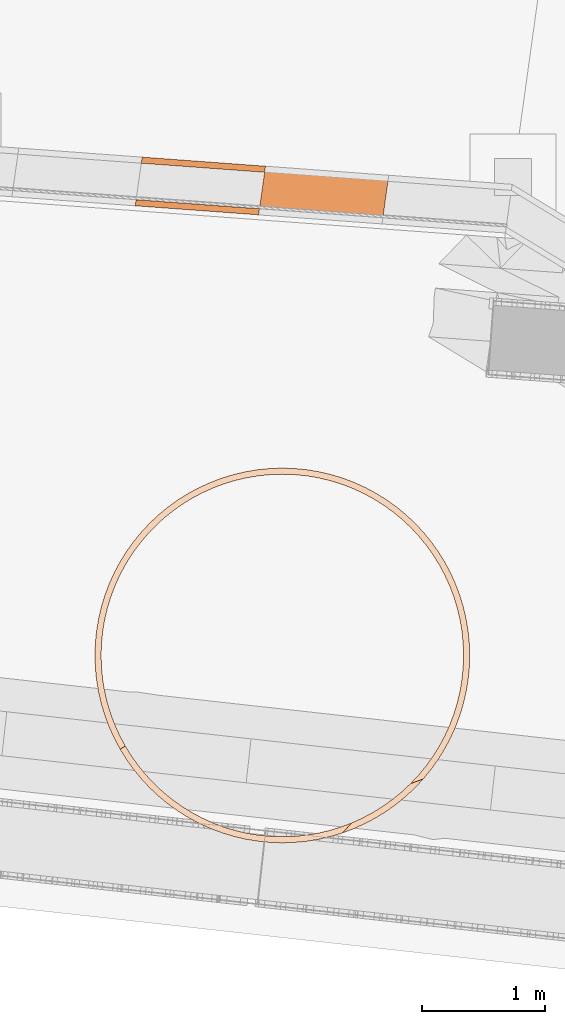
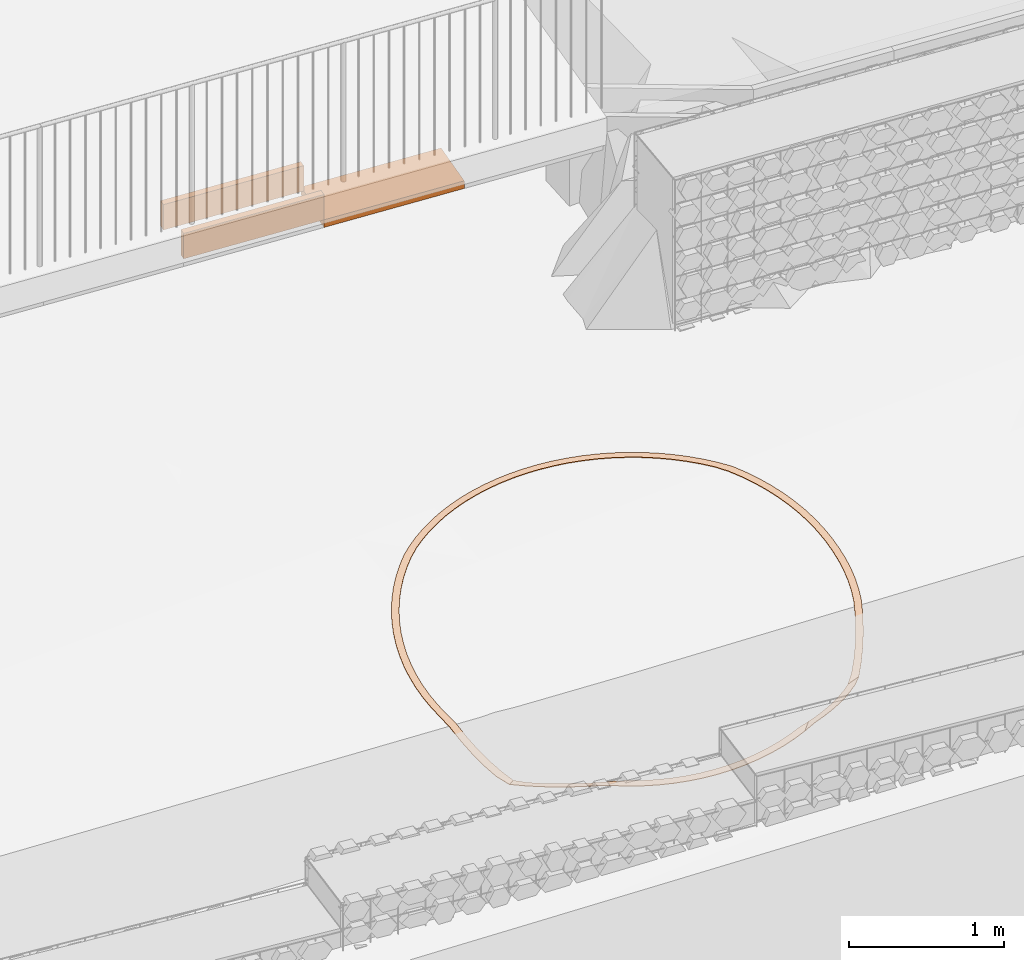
# Not in any storey, part 20 of 45: 3 proxies, 1 geographic element.
"""IFC4 model written with IfcOpenShell, lengths in metres."""

import ifcopenshell
import ifcopenshell.guid

model = None  # the IFC model being written
_history = None  # IfcOwnerHistory: only IFC2X3 demands one
_inside = {}  # id of a spatial element -> (the spatial element, [elements in it])
_under = {}  # id of a project, library or spatial element -> (it, [spatial elements below it])
_declared = {}  # id of a project -> (the project, [libraries it declares])
_typed = {}  # id of a type object -> (the type object, [elements of that type])
_made_of = {}  # id of a material, layer set ... -> (it, [elements and type objects made of it])


def new_model(schema):
    """Start an empty IFC model of exactly this schema.

    Asked for "IFC4X3", IfcOpenShell would pick the latest addendum, in which some entities
    have other attributes; the version numbers below select the first issue.
    IFC2X3 requires an IfcOwnerHistory on every rooted entity: one is made here for all.
    """
    global model, _history
    if schema == "IFC4X3":
        model = ifcopenshell.file(schema_version=(4, 3, 0, 0))
    else:
        model = ifcopenshell.file(schema=schema)
    _inside.clear()
    _under.clear()
    _declared.clear()
    _typed.clear()
    _made_of.clear()
    _history = None
    if model.schema == "IFC2X3":
        org = make("IfcOrganization", Name="unknown")
        user = make(
            "IfcPersonAndOrganization",
            ThePerson=make("IfcPerson", FamilyName="unknown"),
            TheOrganization=org,
        )
        app = make(
            "IfcApplication",
            ApplicationDeveloper=org,
            Version="unknown",
            ApplicationFullName="unknown",
            ApplicationIdentifier="unknown",
        )
        _history = make(
            "IfcOwnerHistory",
            OwningUser=user,
            OwningApplication=app,
            ChangeAction="ADDED",
            CreationDate=0,
        )
    return model


def make(cls, **values):
    """One entity of the class cls with the attributes given. An attribute that is None is left unset."""
    return model.create_entity(
        cls, **{name: value for name, value in values.items() if value is not None}
    )


def rooted(cls, **values):
    """An entity with a GlobalId (a new one), such as an element, a storey or a relation."""
    return make(cls, GlobalId=ifcopenshell.guid.new(), OwnerHistory=_history, **values)


def si_unit(unit_type, name, prefix=None):
    """IfcSIUnit, for example si_unit("LENGTHUNIT", "METRE", prefix="MILLI")."""
    return make("IfcSIUnit", UnitType=unit_type, Prefix=prefix, Name=name)


def assignment(units):
    """IfcUnitAssignment: the units of a project."""
    return None if units is None else make("IfcUnitAssignment", Units=units)


def point(xyz):
    """IfcCartesianPoint."""
    return None if xyz is None else make("IfcCartesianPoint", Coordinates=xyz)


def direction(xyz):
    """IfcDirection."""
    return None if xyz is None else make("IfcDirection", DirectionRatios=xyz)


def frame(location, z_axis=None, x_axis=None):
    """IfcAxis2Placement3D, a coordinate frame: its origin and axes. An axis left out is left unset."""
    return make(
        "IfcAxis2Placement3D",
        Location=point(location),
        Axis=direction(z_axis),
        RefDirection=direction(x_axis),
    )


def origin_with_axes():
    """The frame at (0, 0, 0) with the z axis (0, 0, 1) and the x axis (1, 0, 0) written out."""
    return frame((0.0, 0.0, 0.0), z_axis=(0.0, 0.0, 1.0), x_axis=(1.0, 0.0, 0.0))


def place(relative_to, where):
    """IfcLocalPlacement: puts the frame where relative to a parent placement (None: the world)."""
    return make(
        "IfcLocalPlacement", PlacementRelTo=relative_to, RelativePlacement=where
    )


def context(
    kind, dimensions, precision=None, world=None, true_north=None, identifier=None
):
    """IfcGeometricRepresentationContext, for example the 3D "Model" context."""
    return make(
        "IfcGeometricRepresentationContext",
        ContextIdentifier=identifier,
        ContextType=kind,
        CoordinateSpaceDimension=dimensions,
        Precision=precision,
        WorldCoordinateSystem=world,
        TrueNorth=true_north,
    )


def subcontext(parent, identifier, kind, view, scale=None):
    """IfcGeometricRepresentationSubContext, for example "Body" below "Model"."""
    return make(
        "IfcGeometricRepresentationSubContext",
        ContextIdentifier=identifier,
        ContextType=kind,
        ParentContext=parent,
        TargetScale=scale,
        TargetView=view,
    )


def project(units=None, contexts=None):
    """IfcProject with its units and contexts."""
    return rooted(
        "IfcProject",
        Name="project",
        RepresentationContexts=contexts,
        UnitsInContext=assignment(units),
    )


def spatial(cls, under=None, at=None, **own):
    """A site, building, storey or space (cls), placed at a placement, below another one or the project."""
    s = rooted(cls, ObjectPlacement=at, **own)
    if under is not None:
        _under.setdefault(under.id(), (under, []))[1].append(s)
    return s


def point_list(points):
    """IfcCartesianPointList2D or 3D."""
    cls = (
        "IfcCartesianPointList2D" if len(points[0]) == 2 else "IfcCartesianPointList3D"
    )
    return make(cls, CoordList=points)


def polygons(points, faces, closed=None, point_numbers=None):
    """IfcPolygonalFaceSet: a face is its outer loop, then its inner loops; points numbered from 1."""
    made = []
    for loops in faces:
        if len(loops) == 1:
            made.append(make("IfcIndexedPolygonalFace", CoordIndex=loops[0]))
        else:
            made.append(
                make(
                    "IfcIndexedPolygonalFaceWithVoids",
                    CoordIndex=loops[0],
                    InnerCoordIndices=loops[1:],
                )
            )
    return make(
        "IfcPolygonalFaceSet",
        Coordinates=point_list(points),
        Closed=closed,
        Faces=made,
        PnIndex=point_numbers,
    )


def shape(context_of_items, identifier, shape_type, items):
    """IfcShapeRepresentation: the items that make up one representation, for example the "Body"."""
    return make(
        "IfcShapeRepresentation",
        ContextOfItems=context_of_items,
        RepresentationIdentifier=identifier,
        RepresentationType=shape_type,
        Items=items,
    )


def material(Name=None, Category=None):
    """IfcMaterial."""
    return make("IfcMaterial", Name=Name, Category=Category)


def made_of(thing, what):
    """Note that an element or type object is made of a material, layer set ...; save() writes the relation."""
    if what is not None:
        _made_of.setdefault(what.id(), (what, []))[1].append(thing)
    return thing


def element(
    cls,
    number,
    at=None,
    inside=None,
    cuts=None,
    type_object=None,
    material=None,
    context=None,
    identifier="Body",
    shape_type=None,
    held_by="IfcProductDefinitionShape",
    body=None,
    shapes=None,
    **own,
):
    """One element of the class cls, such as IfcWall. Its Tag is "e" and its number.

    at: its placement. inside: the storey or other place that contains it. cuts: it is an
    opening in that element (IfcRelVoidsElement). A single representation is given by context,
    identifier, shape_type and body (its items); several are given by shapes. held_by: the class
    of the entity that holds the representations. save() writes the other relations.
    """
    e = rooted(cls, Tag="e%d" % number, ObjectPlacement=at, **own)
    if body is not None:
        shapes = [shape(context, identifier, shape_type, body)]
    if shapes is not None:
        e.Representation = make(held_by, Representations=shapes)
    if inside is not None:
        _inside.setdefault(inside.id(), (inside, []))[1].append(e)
    if cuts is not None:
        rooted(
            "IfcRelVoidsElement", RelatingBuildingElement=cuts, RelatedOpeningElement=e
        )
    if type_object is not None:
        _typed.setdefault(type_object.id(), (type_object, []))[1].append(e)
    return made_of(e, material)


def aggregate(whole, parts):
    """IfcRelAggregates: a whole, such as a stair, and the parts it consists of."""
    return rooted("IfcRelAggregates", RelatingObject=whole, RelatedObjects=parts)


def save(model, path):
    """Write the relations noted so far, then the file.

    IfcRelAggregates (storeys below a building ...), IfcRelContainedInSpatialStructure (elements
    in a storey), IfcRelDefinesByType, IfcRelAssociatesMaterial and IfcRelDeclares: one each for
    every whole, place, type object, material and project.
    """
    for whole, parts in _under.values():
        aggregate(whole, parts)
    for where, things in _inside.values():
        rooted(
            "IfcRelContainedInSpatialStructure",
            RelatedElements=things,
            RelatingStructure=where,
        )
    for kind, things in _typed.values():
        rooted("IfcRelDefinesByType", RelatedObjects=things, RelatingType=kind)
    for what, things in _made_of.values():
        rooted("IfcRelAssociatesMaterial", RelatedObjects=things, RelatingMaterial=what)
    for by, libraries in _declared.values():
        rooted("IfcRelDeclares", RelatingContext=by, RelatedDefinitions=libraries)
    model.write(path)


model = new_model("IFC4")

# Units and contexts
model_context = context("Model", 3, precision=1e-05, world=origin_with_axes(), true_north=direction((0.0, 1.0)))
body_context = subcontext(model_context, "Body", "Model", "MODEL_VIEW")
ifc_project = project(units=[si_unit("VOLUMEUNIT", "CUBIC_METRE"), si_unit("LENGTHUNIT", "METRE"), si_unit("AREAUNIT", "SQUARE_METRE")], contexts=[model_context])

# Site
site_placement = place(None, origin_with_axes())
site = spatial("IfcSite", under=ifc_project, at=site_placement, Name="Lares · Rua das Mercês · artigo 4771")

# Proxies
ifc_material_1 = material(Name="Caleiras · betão", Category="concrete")
proxy_1_placement = place(site_placement, frame((0.0, 0.0, 0.0), z_axis=(0.0, 0.0, 1.0), x_axis=(1.0, -1.03767253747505e-17, 0.0)))
element("IfcBuildingElementProxy", 1, at=proxy_1_placement, inside=site, material=ifc_material_1, Name="Acesso · canal lateral", ObjectType="Acesso · canal lateral", PredefinedType="USERDEFINED", context=body_context, shape_type="Tessellation", body=[
    polygons([(52.6687133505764, 2.79896602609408, 15.284), (52.6757378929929, 2.84847012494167, 15.284), (53.6797546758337, 2.77468068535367, 15.285), (53.6727301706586, 2.72517658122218, 15.285), (52.6687133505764, 2.79896602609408, 15.484), (52.6757378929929, 2.84847012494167, 15.484), (53.6797546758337, 2.77468068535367, 15.485), (53.6727301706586, 2.72517658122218, 15.485)], [[[4, 3, 2, 1]], [[5, 6, 7, 8]], [[1, 2, 6, 5]], [[2, 3, 7, 6]], [[3, 4, 8, 7]], [[4, 1, 5, 8]]]),
])
proxy_2_placement = place(site_placement, frame((0.0, 0.0, 0.0), z_axis=(0.0, 0.0, 1.0), x_axis=(1.0, -1.03767253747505e-17, 0.0)))
element("IfcBuildingElementProxy", 2, at=proxy_2_placement, inside=site, material=ifc_material_1, Name="Acesso · canal lateral", ObjectType="Acesso · canal lateral", PredefinedType="USERDEFINED", context=body_context, shape_type="Tessellation", body=[
    polygons([(52.7178851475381, 3.14549471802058, 15.284), (52.7249096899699, 3.19499881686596, 15.284), (53.7289262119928, 3.12120941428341, 15.285), (53.7219017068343, 3.07170531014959, 15.285), (52.7178851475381, 3.14549471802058, 15.484), (52.7249096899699, 3.19499881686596, 15.484), (53.7289262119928, 3.12120941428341, 15.485), (53.7219017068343, 3.07170531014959, 15.485)], [[[4, 3, 2, 1]], [[5, 6, 7, 8]], [[1, 2, 6, 5]], [[2, 3, 7, 6]], [[3, 4, 8, 7]], [[4, 1, 5, 8]]]),
])
proxy_3_placement = place(site_placement, frame((0.0, 0.0, 0.0), z_axis=(0.0, 0.0, 1.0), x_axis=(1.0, -1.03767253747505e-17, 0.0)))
element("IfcBuildingElementProxy", 3, at=proxy_3_placement, inside=site, material=ifc_material_1, Name="Acesso · canal lateral", ObjectType="Acesso · canal lateral", PredefinedType="USERDEFINED", context=body_context, shape_type="Tessellation", body=[
    polygons([(53.6729766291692, 2.72514176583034, 15.225), (53.728679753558, 3.12124422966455, 15.225), (54.7326888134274, 3.04745550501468, 15.226), (54.6769860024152, 2.65135299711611, 15.226), (53.6729766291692, 2.72514176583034, 15.285), (53.728679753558, 3.12124422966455, 15.285), (54.7326888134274, 3.04745550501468, 15.286), (54.6769860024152, 2.65135299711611, 15.286)], [[[4, 3, 2, 1]], [[5, 6, 7, 8]], [[1, 2, 6, 5]], [[2, 3, 7, 6]], [[3, 4, 8, 7]], [[4, 1, 5, 8]]]),
])

# Geographic element
ifc_material_2 = material(Name="Marcação de plantação · linha no terreno", Category="stone")
geographic_element_placement = place(site_placement, frame((0.0, 0.0, 0.0), z_axis=(0.0, 0.0, 1.0), x_axis=(1.0, -1.03767253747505e-17, 0.0)))
element("IfcGeographicElement", 4, at=geographic_element_placement, inside=site, material=ifc_material_2, Name="Marcação no solo · árvore indicativa 07", ObjectType="Marcação no solo · árvore indicativa 07", PredefinedType="USERDEFINED", context=body_context, shape_type="Tessellation", body=[
    polygons([(55.3409303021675, -0.860751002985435, 14.3439481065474), (55.3409303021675, -0.860751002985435, 14.3479481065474), (55.3909303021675, -0.860751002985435, 14.3471077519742), (55.3909303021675, -0.860751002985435, 14.3511077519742), (55.3377722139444, -0.764281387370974, 14.3616722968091), (55.3377722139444, -0.764281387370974, 14.3656722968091), (55.3876651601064, -0.761011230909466, 14.3654327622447), (55.3876651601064, -0.761011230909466, 14.3694327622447), (55.3283114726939, -0.668224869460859, 14.3789214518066), (55.3283114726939, -0.668224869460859, 14.3829214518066), (55.3778837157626, -0.661698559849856, 14.3832666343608), (55.3778837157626, -0.661698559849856, 14.3872666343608), (55.3125885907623, -0.572992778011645, 14.39562170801), (55.3125885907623, -0.572992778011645, 14.39962170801), (55.3616278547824, -0.563238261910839, 14.400533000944), (55.3616278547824, -0.563238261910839, 14.404533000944), (55.2906708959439, -0.478992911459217, 14.4117015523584), (55.2906708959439, -0.478992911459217, 14.4157015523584), (55.3389671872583, -0.46605195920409, 14.4171579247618), (55.3389671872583, -0.46605195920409, 14.4211579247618), (55.2626522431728, -0.386627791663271, 14.4270921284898), (55.2626522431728, -0.386627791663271, 14.4310921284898), (55.3099987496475, -0.370555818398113, 14.4330702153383), (55.3099987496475, -0.370555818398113, 14.4370702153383), (55.2286526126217, -0.296292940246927, 14.4417275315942), (55.2286526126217, -0.296292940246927, 14.4457275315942), (55.2748465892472, -0.277158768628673, 14.4482017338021), (55.2748465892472, -0.277158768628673, 14.4522017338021), (55.1888175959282, -0.208375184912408, 14.4555450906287), (55.1888175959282, -0.208375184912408, 14.4595450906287), (55.2336612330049, -0.186260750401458, 14.4624876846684), (55.2336612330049, -0.186260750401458, 14.4664876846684), (55.1433177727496, -0.123251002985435, 14.4684856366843), (55.1433177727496, -0.123251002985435, 14.4724856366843), (55.1866190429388, -0.0982510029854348, 14.4758668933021), (55.1866190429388, -0.0982510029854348, 14.4798668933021), (55.0923479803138, -0.0412849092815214, 14.480493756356), (55.0923479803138, -0.0412849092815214, 14.484493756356), (55.1339214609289, -0.0135063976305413, 14.4882820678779), (55.1339214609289, -0.0135063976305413, 14.4922820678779), (55.0361264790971, 0.0371721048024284, 14.4863037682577), (55.0361264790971, 0.0371721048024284, 14.4903037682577), (55.0757941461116, 0.0676101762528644, 14.4893999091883), (55.0757941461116, 0.0676101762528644, 14.4933999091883), (54.974894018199, 0.111784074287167, 14.4868276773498), (54.974894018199, 0.111784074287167, 14.4908276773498), (55.0124860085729, 0.14475136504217, 14.4899415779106), (55.0124860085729, 0.14475136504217, 14.4939415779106), (54.9089128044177, 0.182231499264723, 14.4869582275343), (54.9089128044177, 0.182231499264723, 14.4909582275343), (54.944268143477, 0.21758683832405, 14.4900765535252), (54.944268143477, 0.21758683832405, 14.4940765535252), (54.8384653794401, 0.248212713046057, 14.4866948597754), (54.8384653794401, 0.248212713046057, 14.4906948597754), (54.8714326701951, 0.285804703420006, 14.4898042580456), (54.8714326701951, 0.285804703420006, 14.4938042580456), (54.7638534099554, 0.309445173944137, 14.4860387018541), (54.7638534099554, 0.309445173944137, 14.4900387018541), (54.7942914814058, 0.349112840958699, 14.4891258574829), (54.7942914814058, 0.349112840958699, 14.4931258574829), (54.6853963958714, 0.36566667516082, 14.4849925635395), (54.6853963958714, 0.36566667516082, 14.4889925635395), (54.7131749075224, 0.407240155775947, 14.4880442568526), (54.7131749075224, 0.407240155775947, 14.4920442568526), (54.6034303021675, 0.416636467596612, 14.4835609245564), (54.6034303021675, 0.416636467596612, 14.4875609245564), (54.6284303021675, 0.459937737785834, 14.4865640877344), (54.6284303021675, 0.459937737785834, 14.4905640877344), (54.5183061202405, 0.462136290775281, 14.4817499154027), (54.5183061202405, 0.462136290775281, 14.4857499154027), (54.5404205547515, 0.506979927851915, 14.4846916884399), (54.5404205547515, 0.506979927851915, 14.4886916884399), (54.430388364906, 0.501971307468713, 14.4795672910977), (54.430388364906, 0.501971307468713, 14.4835672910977), (54.4495225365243, 0.548165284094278, 14.4824350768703), (54.4495225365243, 0.548165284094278, 14.4864350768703), (54.3400535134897, 0.535970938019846, 14.4770223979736), (54.3400535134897, 0.535970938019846, 14.4810223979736), (54.3561254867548, 0.583317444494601, 14.4798039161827), (54.3561254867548, 0.583317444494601, 14.4838039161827), (54.2476883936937, 0.563989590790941, 14.4741261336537), (54.2476883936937, 0.563989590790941, 14.4781261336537), (54.2606293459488, 0.612285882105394, 14.4768094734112), (54.2606293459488, 0.612285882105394, 14.4808094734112), (54.1536885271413, 0.58590728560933, 14.4708909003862), (54.1536885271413, 0.58590728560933, 14.4748909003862), (54.1634430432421, 0.634946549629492, 14.4734645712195), (54.1634430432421, 0.634946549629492, 14.4774645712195), (54.0584564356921, 0.601630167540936, 14.4673305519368), (54.0584564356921, 0.601630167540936, 14.4713305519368), (54.0649827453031, 0.651202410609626, 14.4697835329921), (54.0649827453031, 0.651202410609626, 14.4737835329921), (53.962399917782, 0.611090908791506, 14.4634603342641), (53.962399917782, 0.611090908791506, 14.4674603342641), (53.9656700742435, 0.660983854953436, 14.4657821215), (53.9656700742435, 0.660983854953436, 14.4697821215), (53.8659303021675, 0.614248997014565, 14.4592968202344), (53.8659303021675, 0.614248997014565, 14.4632968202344), (53.8659303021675, 0.664248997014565, 14.4614774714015), (53.8659303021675, 0.664248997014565, 14.4654774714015), (53.769460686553, 0.611090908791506, 14.4548578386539), (53.769460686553, 0.611090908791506, 14.4588578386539), (53.7661905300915, 0.660983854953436, 14.4568880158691), (53.7661905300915, 0.660983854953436, 14.4608880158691), (53.6734041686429, 0.601630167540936, 14.4501623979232), (53.6734041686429, 0.601630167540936, 14.4541623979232), (53.6668778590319, 0.651202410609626, 14.452033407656), (53.6668778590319, 0.651202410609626, 14.456033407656), (53.5781720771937, 0.58590728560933, 14.4452306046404), (53.5781720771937, 0.58590728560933, 14.4492306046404), (53.5684175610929, 0.634946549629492, 14.4469344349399), (53.5684175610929, 0.634946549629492, 14.4509344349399), (53.4841722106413, 0.563989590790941, 14.4400835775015), (53.4841722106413, 0.563989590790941, 14.4440835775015), (53.4712312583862, 0.612285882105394, 14.4416129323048), (53.4712312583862, 0.612285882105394, 14.4456129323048), (53.3918070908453, 0.535970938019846, 14.4347433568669), (53.3918070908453, 0.535970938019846, 14.4387433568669), (53.3757351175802, 0.583317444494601, 14.4360916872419), (53.3757351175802, 0.583317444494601, 14.4400916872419), (53.301472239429, 0.501971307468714, 14.4292328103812), (53.301472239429, 0.501971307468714, 14.4332328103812), (53.2823380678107, 0.548165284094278, 14.4303943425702), (53.2823380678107, 0.548165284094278, 14.4343943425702), (53.2135544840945, 0.462136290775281, 14.4235755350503), (53.2135544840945, 0.462136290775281, 14.4275755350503), (53.1914400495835, 0.506979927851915, 14.4245452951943), (53.1914400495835, 0.506979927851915, 14.4285452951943), (53.1284303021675, 0.416636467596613, 14.4177957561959), (53.1284303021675, 0.416636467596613, 14.4217957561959), (53.1034303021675, 0.459937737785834, 14.4185695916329), (53.1034303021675, 0.459937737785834, 14.4225695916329), (53.0464642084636, 0.36566667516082, 14.4119182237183), (53.0464642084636, 0.36566667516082, 14.4159182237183), (53.0186856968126, 0.407240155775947, 14.4124928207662), (53.0186856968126, 0.407240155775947, 14.4164928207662), (52.9680071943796, 0.309445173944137, 14.4059681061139), (52.9680071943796, 0.309445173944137, 14.4099681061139), (52.9375691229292, 0.349112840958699, 14.40634100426), (52.9375691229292, 0.349112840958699, 14.41034100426), (52.8933952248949, 0.248212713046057, 14.3953233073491), (52.8933952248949, 0.248212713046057, 14.3993233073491), (52.8604279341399, 0.285804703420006, 14.4001404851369), (52.8604279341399, 0.285804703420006, 14.4041404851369), (52.8229477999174, 0.182231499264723, 14.378612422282), (52.8229477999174, 0.182231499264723, 14.382612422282), (52.787592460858, 0.21758683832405, 14.3829471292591), (52.787592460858, 0.21758683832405, 14.3869471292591), (52.756966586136, 0.111784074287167, 14.3613539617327), (52.756966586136, 0.111784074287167, 14.3653539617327), (52.7193745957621, 0.144751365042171, 14.3651036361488), (52.7193745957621, 0.144751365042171, 14.3691036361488), (52.6957341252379, 0.0371721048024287, 14.3436218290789), (52.6957341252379, 0.0371721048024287, 14.3476218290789), (52.6560664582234, 0.0676101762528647, 14.3467704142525), (52.6560664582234, 0.0676101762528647, 14.3507704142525), (52.6395126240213, -0.0412849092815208, 14.3254919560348), (52.6395126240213, -0.0412849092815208, 14.3294919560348), (52.5979391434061, -0.0135063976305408, 14.3280259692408), (52.5979391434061, -0.0135063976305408, 14.3320259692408), (52.5885428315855, -0.123251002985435, 14.3070419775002), (52.5885428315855, -0.123251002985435, 14.3110419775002), (52.5452415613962, -0.0982510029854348, 14.308950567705), (52.5452415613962, -0.0982510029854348, 14.312950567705), (52.5430430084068, -0.208375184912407, 14.2883508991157), (52.5430430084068, -0.208375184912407, 14.2923508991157), (52.4981993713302, -0.186260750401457, 14.289625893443), (52.4981993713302, -0.186260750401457, 14.293625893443), (52.5032079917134, -0.296292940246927, 14.2694987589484), (52.5032079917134, -0.296292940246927, 14.2734987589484), (52.4570140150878, -0.277158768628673, 14.2701346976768), (52.4570140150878, -0.277158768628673, 14.2741346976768), (52.4692083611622, -0.386627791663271, 14.2505662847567), (52.4692083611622, -0.386627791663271, 14.2545662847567), (52.4218618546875, -0.370555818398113, 14.250560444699), (52.4218618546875, -0.370555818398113, 14.254560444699), (52.4411897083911, -0.478992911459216, 14.2316345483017), (52.4411897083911, -0.478992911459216, 14.2356345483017), (52.3928934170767, -0.46605195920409, 14.2309869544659), (52.3928934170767, -0.46605195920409, 14.2349869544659), (52.4192720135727, -0.572992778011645, 14.2127846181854), (52.4192720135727, -0.572992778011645, 14.2167846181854), (52.3702327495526, -0.563238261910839, 14.2114980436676), (52.3702327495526, -0.563238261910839, 14.2154980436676), (52.4035491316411, -0.668224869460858, 14.1940972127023), (52.4035491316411, -0.668224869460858, 14.1980972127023), (52.3539768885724, -0.661698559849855, 14.1921771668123), (52.3539768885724, -0.661698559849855, 14.1961771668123), (52.3940883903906, -0.764281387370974, 14.1756523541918), (52.3940883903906, -0.764281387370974, 14.1796523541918), (52.3441954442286, -0.761011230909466, 14.1731070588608), (52.3441954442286, -0.761011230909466, 14.1771070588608), (52.3909303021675, -0.860751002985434, 14.1575290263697), (52.3909303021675, -0.860751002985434, 14.1615290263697), (52.3409303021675, -0.860751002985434, 14.154369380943), (52.3409303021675, -0.860751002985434, 14.158369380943), (52.3940883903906, -0.957220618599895, 14.139804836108), (52.3940883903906, -0.957220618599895, 14.143804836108), (52.3441954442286, -0.960490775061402, 14.1360443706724), (52.3441954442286, -0.960490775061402, 14.1400443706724), (52.4035491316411, -1.05327713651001, 14.1225556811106), (52.4035491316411, -1.05327713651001, 14.1265556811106), (52.3539768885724, -1.05980344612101, 14.1182104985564), (52.3539768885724, -1.05980344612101, 14.1222104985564), (52.4192720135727, -1.14850922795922, 14.1007017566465), (52.4192720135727, -1.14850922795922, 14.1047017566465), (52.3702327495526, -1.15826374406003, 14.0897477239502), (52.3702327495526, -1.15826374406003, 14.0937477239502), (52.4411897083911, -1.24250909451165, 14.048219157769), (52.4411897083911, -1.24250909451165, 14.052219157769), (52.3928934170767, -1.25545004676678, 14.0354860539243), (52.3928934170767, -1.25545004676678, 14.0394860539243), (52.4692083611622, -1.3348742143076, 13.9973450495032), (52.4692083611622, -1.3348742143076, 14.0013450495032), (52.4218618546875, -1.35094618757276, 13.9828873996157), (52.4218618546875, -1.35094618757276, 13.9868873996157), (52.5032079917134, -1.42520906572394, 13.9482972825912), (52.5032079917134, -1.42520906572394, 13.9522972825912), (52.4570140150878, -1.4443432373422, 13.9321769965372), (52.4570140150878, -1.4443432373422, 13.9361769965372), (52.5430430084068, -1.51312682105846, 13.9033729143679), (52.5430430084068, -1.51312682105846, 13.9073729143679), (52.4981993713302, -1.53524125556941, 13.8862350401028), (52.4981993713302, -1.53524125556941, 13.8902350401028), (52.5885428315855, -1.59825100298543, 13.862351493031), (52.5885428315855, -1.59825100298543, 13.866351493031), (52.5452415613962, -1.62325100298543, 13.8604824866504), (52.5452415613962, -1.62325100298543, 13.8644824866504), (52.6395126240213, -1.68021709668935, 13.8773016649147), (52.6395126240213, -1.68021709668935, 13.8813016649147), (52.5979391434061, -1.70799560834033, 13.8832194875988), (52.5979391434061, -1.70799560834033, 13.8872194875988), (52.6957341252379, -1.7586741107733, 13.8985456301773), (52.6957341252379, -1.7586741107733, 13.9025456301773), (52.6560664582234, -1.78911218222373, 13.905183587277), (52.6560664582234, -1.78911218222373, 13.909183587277), (52.756966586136, -1.83328608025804, 13.9189510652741), (52.756966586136, -1.83328608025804, 13.9229510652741), (52.7193745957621, -1.86625337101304, 13.9262807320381), (52.7193745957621, -1.86625337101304, 13.9302807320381), (52.8229477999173, -1.90373350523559, 13.9384305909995), (52.8229477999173, -1.90373350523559, 13.9424305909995), (52.787592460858, -1.93908884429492, 13.9464205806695), (52.787592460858, -1.93908884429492, 13.9504205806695), (52.8933952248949, -1.96971471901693, 13.9569007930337), (52.8933952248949, -1.96971471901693, 13.9609007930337), (52.8604279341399, -2.00730670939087, 13.9655168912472), (52.8604279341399, -2.00730670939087, 13.9695168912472), (52.9680071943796, -2.03094717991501, 13.974282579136), (52.9680071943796, -2.03094717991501, 13.978282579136), (52.9375691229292, -2.07061484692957, 13.9834878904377), (52.9375691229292, -2.07061484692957, 13.9874878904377), (53.0464642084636, -2.08716868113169, 13.9905015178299), (53.0464642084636, -2.08716868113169, 13.9945015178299), (53.0186856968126, -2.12874216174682, 13.9918649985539), (53.0186856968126, -2.12874216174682, 13.9958649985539), (53.1284303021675, -2.13813847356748, 13.9982054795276), (53.1284303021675, -2.13813847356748, 14.0022054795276), (53.1034303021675, -2.1814397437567, 13.9901503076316), (53.1034303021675, -2.1814397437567, 13.9941503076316), (53.2135544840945, -2.18363829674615, 13.9975645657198), (53.2135544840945, -2.18363829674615, 14.0015645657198), (53.1914400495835, -2.22848193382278, 13.989487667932), (53.1914400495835, -2.22848193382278, 13.993487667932), (53.301472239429, -2.22347331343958, 13.9979439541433), (53.301472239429, -2.22347331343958, 14.0019439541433), (53.2823380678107, -2.26966729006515, 13.98987991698), (53.2823380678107, -2.26966729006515, 13.99387991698), (53.3918070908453, -2.25747294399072, 13.9993420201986), (53.3918070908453, -2.25747294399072, 14.0033420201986), (53.3757351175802, -2.30481945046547, 13.991325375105), (53.3757351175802, -2.30481945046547, 13.995325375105), (53.4841722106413, -2.28549159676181, 14.0017527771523), (53.4841722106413, -2.28549159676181, 14.0057527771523), (53.4712312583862, -2.33378788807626, 13.9938178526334), (53.4712312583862, -2.33378788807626, 13.9978178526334), (53.5781720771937, -2.3074092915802, 14.005165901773), (53.5781720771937, -2.3074092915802, 14.009165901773), (53.5684175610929, -2.35644855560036, 13.9973466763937), (53.5684175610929, -2.35644855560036, 14.0013466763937), (53.6734041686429, -2.32313217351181, 14.009566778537), (53.6734041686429, -2.32313217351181, 14.013566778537), (53.6668778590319, -2.3727044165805, 14.0018967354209), (53.6668778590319, -2.3727044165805, 14.0058967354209), (53.769460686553, -2.33259291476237, 14.0149365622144), (53.769460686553, -2.33259291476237, 14.0189365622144), (53.7661905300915, -2.38248586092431, 14.0074485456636), (53.7661905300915, -2.38248586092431, 14.0114485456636), (53.8659303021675, -2.33575100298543, 14.0212522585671), (53.8659303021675, -2.33575100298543, 14.0252522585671), (53.8659303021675, -2.38575100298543, 14.0139783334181), (53.8659303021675, -2.38575100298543, 14.0179783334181), (53.962399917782, -2.33259291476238, 14.0284868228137), (53.962399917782, -2.33259291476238, 14.0324868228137), (53.9656700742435, -2.38248586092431, 14.0214581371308), (53.9656700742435, -2.38248586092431, 14.0254581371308), (54.0584564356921, -2.32313217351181, 14.0366092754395), (54.0584564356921, -2.32313217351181, 14.0406092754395), (54.0649827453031, -2.3727044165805, 14.0298559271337), (54.0649827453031, -2.3727044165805, 14.0338559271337), (54.1536885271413, -2.3074092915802, 14.0455848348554), (54.1536885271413, -2.3074092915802, 14.0495848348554), (54.1634430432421, -2.35644855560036, 14.039135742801), (54.1634430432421, -2.35644855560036, 14.043135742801), (54.2476883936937, -2.28549159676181, 14.0553750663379), (54.2476883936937, -2.28549159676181, 14.0593750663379), (54.2606293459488, -2.33378788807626, 14.0492578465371), (54.2606293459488, -2.33378788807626, 14.0532578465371), (54.3400535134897, -2.25747294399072, 14.0659380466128), (54.3400535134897, -2.25747294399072, 14.0699380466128), (54.3561254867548, -2.30481945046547, 14.06017889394), (54.3561254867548, -2.30481945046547, 14.06417889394), (54.430388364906, -2.22347331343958, 14.0609636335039), (54.430388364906, -2.22347331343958, 14.0649636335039), (54.4495225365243, -2.26966729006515, 14.071852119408), (54.4495225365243, -2.26966729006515, 14.075852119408), (54.5183061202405, -2.18363829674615, 14.0532156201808), (54.5183061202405, -2.18363829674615, 14.0572156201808), (54.5404205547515, -2.22848193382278, 14.0650966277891), (54.5404205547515, -2.22848193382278, 14.0690966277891), (54.6034303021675, -2.13813847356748, 14.0439667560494), (54.6034303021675, -2.13813847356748, 14.0479667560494), (54.6284303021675, -2.1814397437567, 14.0555342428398), (54.6284303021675, -2.1814397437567, 14.0595342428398), (54.6853963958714, -2.08716868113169, 14.0332566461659), (54.6853963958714, -2.08716868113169, 14.0372566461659), (54.7131749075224, -2.12874216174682, 14.044461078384), (54.7131749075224, -2.12874216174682, 14.048461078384), (54.7638534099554, -2.03094717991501, 14.0211311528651), (54.7638534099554, -2.03094717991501, 14.0251311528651), (54.7942914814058, -2.07061484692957, 14.0319245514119), (54.7942914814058, -2.07061484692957, 14.0359245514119), (54.8384653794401, -1.96971471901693, 14.0076421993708), (54.8384653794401, -1.96971471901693, 14.0116421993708), (54.8714326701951, -2.00730670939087, 14.0179783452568), (54.8714326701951, -2.00730670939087, 14.0219783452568), (54.9089128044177, -1.90373350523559, 13.9928475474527), (54.9089128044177, -1.90373350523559, 13.9968475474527), (54.944268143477, -1.93908884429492, 14.0026821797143), (54.944268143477, -1.93908884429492, 14.0066821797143), (54.974894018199, -1.83328608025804, 14.0076562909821), (54.974894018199, -1.83328608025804, 14.0116562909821), (55.0124860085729, -1.86625337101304, 13.9940534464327), (55.0124860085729, -1.86625337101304, 13.9980534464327), (55.0361264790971, -1.7586741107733, 14.0551766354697), (55.0361264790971, -1.7586741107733, 14.0591766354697), (55.0757941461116, -1.78911218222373, 14.0431846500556), (55.0757941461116, -1.78911218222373, 14.0471846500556), (55.0923479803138, -1.68021709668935, 14.1042118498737), (55.0923479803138, -1.68021709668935, 14.1082118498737), (55.1339214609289, -1.70799560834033, 14.0938820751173), (55.1339214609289, -1.70799560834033, 14.0978820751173), (55.1433177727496, -1.59825100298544, 14.1545519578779), (55.1433177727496, -1.59825100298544, 14.1585519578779), (55.1866190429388, -1.62325100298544, 14.1459286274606), (55.1866190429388, -1.62325100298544, 14.1499286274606), (55.1888175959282, -1.51312682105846, 14.2059813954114), (55.1888175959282, -1.51312682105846, 14.2099813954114), (55.2336612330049, -1.53524125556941, 14.199101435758), (55.2336612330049, -1.53524125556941, 14.203101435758), (55.2286526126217, -1.42520906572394, 14.249421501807), (55.2286526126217, -1.42520906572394, 14.253421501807), (55.2748465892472, -1.4443432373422, 14.2498821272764), (55.2748465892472, -1.4443432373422, 14.2538821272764), (55.2626522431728, -1.3348742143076, 14.2649510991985), (55.2626522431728, -1.3348742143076, 14.2689510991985), (55.3099987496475, -1.35094618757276, 14.2659381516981), (55.3099987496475, -1.35094618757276, 14.2699381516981), (55.2906708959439, -1.24250909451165, 14.280356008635), (55.2906708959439, -1.24250909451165, 14.284356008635), (55.3389671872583, -1.25545004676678, 14.2818652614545), (55.3389671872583, -1.25545004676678, 14.2858652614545), (55.3125885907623, -1.14850922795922, 14.2955702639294), (55.3125885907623, -1.14850922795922, 14.2995702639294), (55.3616278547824, -1.15826374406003, 14.2975952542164), (55.3616278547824, -1.15826374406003, 14.3015952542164), (55.3283114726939, -1.05327713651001, 14.3105287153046), (55.3283114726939, -1.05327713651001, 14.3145287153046), (55.3778837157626, -1.05980344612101, 14.31306077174), (55.3778837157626, -1.05980344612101, 14.31706077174), (55.3377722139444, -0.957220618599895, 14.3258247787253), (55.3377722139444, -0.957220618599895, 14.3298247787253), (55.3876651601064, -0.960490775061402, 14.3283700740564), (55.3876651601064, -0.960490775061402, 14.3323700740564)], [[[5, 7, 3, 1]], [[4, 8, 6, 2]], [[2, 6, 5, 1]], [[7, 8, 4, 3]], [[9, 11, 7, 5]], [[8, 12, 10, 6]], [[6, 10, 9, 5]], [[11, 12, 8, 7]], [[13, 15, 11, 9]], [[12, 16, 14, 10]], [[10, 14, 13, 9]], [[15, 16, 12, 11]], [[17, 19, 15, 13]], [[16, 20, 18, 14]], [[14, 18, 17, 13]], [[19, 20, 16, 15]], [[21, 23, 19, 17]], [[20, 24, 22, 18]], [[18, 22, 21, 17]], [[23, 24, 20, 19]], [[25, 27, 23, 21]], [[24, 28, 26, 22]], [[22, 26, 25, 21]], [[27, 28, 24, 23]], [[29, 31, 27, 25]], [[28, 32, 30, 26]], [[26, 30, 29, 25]], [[31, 32, 28, 27]], [[33, 35, 31, 29]], [[32, 36, 34, 30]], [[30, 34, 33, 29]], [[35, 36, 32, 31]], [[37, 39, 35, 33]], [[36, 40, 38, 34]], [[34, 38, 37, 33]], [[39, 40, 36, 35]], [[41, 43, 39, 37]], [[40, 44, 42, 38]], [[38, 42, 41, 37]], [[43, 44, 40, 39]], [[45, 47, 43, 41]], [[44, 48, 46, 42]], [[42, 46, 45, 41]], [[47, 48, 44, 43]], [[49, 51, 47, 45]], [[48, 52, 50, 46]], [[46, 50, 49, 45]], [[51, 52, 48, 47]], [[53, 55, 51, 49]], [[52, 56, 54, 50]], [[50, 54, 53, 49]], [[55, 56, 52, 51]], [[57, 59, 55, 53]], [[56, 60, 58, 54]], [[54, 58, 57, 53]], [[59, 60, 56, 55]], [[61, 63, 59, 57]], [[60, 64, 62, 58]], [[58, 62, 61, 57]], [[63, 64, 60, 59]], [[65, 67, 63, 61]], [[64, 68, 66, 62]], [[62, 66, 65, 61]], [[67, 68, 64, 63]], [[69, 71, 67, 65]], [[68, 72, 70, 66]], [[66, 70, 69, 65]], [[71, 72, 68, 67]], [[73, 75, 71, 69]], [[72, 76, 74, 70]], [[70, 74, 73, 69]], [[75, 76, 72, 71]], [[77, 79, 75, 73]], [[76, 80, 78, 74]], [[74, 78, 77, 73]], [[79, 80, 76, 75]], [[81, 83, 79, 77]], [[80, 84, 82, 78]], [[78, 82, 81, 77]], [[83, 84, 80, 79]], [[85, 87, 83, 81]], [[84, 88, 86, 82]], [[82, 86, 85, 81]], [[87, 88, 84, 83]], [[89, 91, 87, 85]], [[88, 92, 90, 86]], [[86, 90, 89, 85]], [[91, 92, 88, 87]], [[93, 95, 91, 89]], [[92, 96, 94, 90]], [[90, 94, 93, 89]], [[95, 96, 92, 91]], [[97, 99, 95, 93]], [[96, 100, 98, 94]], [[94, 98, 97, 93]], [[99, 100, 96, 95]], [[101, 103, 99, 97]], [[100, 104, 102, 98]], [[98, 102, 101, 97]], [[103, 104, 100, 99]], [[105, 107, 103, 101]], [[104, 108, 106, 102]], [[102, 106, 105, 101]], [[107, 108, 104, 103]], [[109, 111, 107, 105]], [[108, 112, 110, 106]], [[106, 110, 109, 105]], [[111, 112, 108, 107]], [[113, 115, 111, 109]], [[112, 116, 114, 110]], [[110, 114, 113, 109]], [[115, 116, 112, 111]], [[117, 119, 115, 113]], [[116, 120, 118, 114]], [[114, 118, 117, 113]], [[119, 120, 116, 115]], [[121, 123, 119, 117]], [[120, 124, 122, 118]], [[118, 122, 121, 117]], [[123, 124, 120, 119]], [[125, 127, 123, 121]], [[124, 128, 126, 122]], [[122, 126, 125, 121]], [[127, 128, 124, 123]], [[129, 131, 127, 125]], [[128, 132, 130, 126]], [[126, 130, 129, 125]], [[131, 132, 128, 127]], [[133, 135, 131, 129]], [[132, 136, 134, 130]], [[130, 134, 133, 129]], [[135, 136, 132, 131]], [[137, 139, 135, 133]], [[136, 140, 138, 134]], [[134, 138, 137, 133]], [[139, 140, 136, 135]], [[141, 143, 139, 137]], [[140, 144, 142, 138]], [[138, 142, 141, 137]], [[143, 144, 140, 139]], [[145, 147, 143, 141]], [[144, 148, 146, 142]], [[142, 146, 145, 141]], [[147, 148, 144, 143]], [[149, 151, 147, 145]], [[148, 152, 150, 146]], [[146, 150, 149, 145]], [[151, 152, 148, 147]], [[153, 155, 151, 149]], [[152, 156, 154, 150]], [[150, 154, 153, 149]], [[155, 156, 152, 151]], [[157, 159, 155, 153]], [[156, 160, 158, 154]], [[154, 158, 157, 153]], [[159, 160, 156, 155]], [[161, 163, 159, 157]], [[160, 164, 162, 158]], [[158, 162, 161, 157]], [[163, 164, 160, 159]], [[165, 167, 163, 161]], [[164, 168, 166, 162]], [[162, 166, 165, 161]], [[167, 168, 164, 163]], [[169, 171, 167, 165]], [[168, 172, 170, 166]], [[166, 170, 169, 165]], [[171, 172, 168, 167]], [[173, 175, 171, 169]], [[172, 176, 174, 170]], [[170, 174, 173, 169]], [[175, 176, 172, 171]], [[177, 179, 175, 173]], [[176, 180, 178, 174]], [[174, 178, 177, 173]], [[179, 180, 176, 175]], [[181, 183, 179, 177]], [[180, 184, 182, 178]], [[178, 182, 181, 177]], [[183, 184, 180, 179]], [[185, 187, 183, 181]], [[184, 188, 186, 182]], [[182, 186, 185, 181]], [[187, 188, 184, 183]], [[189, 191, 187, 185]], [[188, 192, 190, 186]], [[186, 190, 189, 185]], [[191, 192, 188, 187]], [[193, 195, 191, 189]], [[192, 196, 194, 190]], [[190, 194, 193, 189]], [[195, 196, 192, 191]], [[197, 199, 195, 193]], [[196, 200, 198, 194]], [[194, 198, 197, 193]], [[199, 200, 196, 195]], [[201, 203, 199, 197]], [[200, 204, 202, 198]], [[198, 202, 201, 197]], [[203, 204, 200, 199]], [[205, 207, 203, 201]], [[204, 208, 206, 202]], [[202, 206, 205, 201]], [[207, 208, 204, 203]], [[209, 211, 207, 205]], [[208, 212, 210, 206]], [[206, 210, 209, 205]], [[211, 212, 208, 207]], [[213, 215, 211, 209]], [[212, 216, 214, 210]], [[210, 214, 213, 209]], [[215, 216, 212, 211]], [[217, 219, 215, 213]], [[216, 220, 218, 214]], [[214, 218, 217, 213]], [[219, 220, 216, 215]], [[221, 223, 219, 217]], [[220, 224, 222, 218]], [[218, 222, 221, 217]], [[223, 224, 220, 219]], [[225, 227, 223, 221]], [[224, 228, 226, 222]], [[222, 226, 225, 221]], [[227, 228, 224, 223]], [[229, 231, 227, 225]], [[228, 232, 230, 226]], [[226, 230, 229, 225]], [[231, 232, 228, 227]], [[233, 235, 231, 229]], [[232, 236, 234, 230]], [[230, 234, 233, 229]], [[235, 236, 232, 231]], [[237, 239, 235, 233]], [[236, 240, 238, 234]], [[234, 238, 237, 233]], [[239, 240, 236, 235]], [[241, 243, 239, 237]], [[240, 244, 242, 238]], [[238, 242, 241, 237]], [[243, 244, 240, 239]], [[245, 247, 243, 241]], [[244, 248, 246, 242]], [[242, 246, 245, 241]], [[247, 248, 244, 243]], [[249, 251, 247, 245]], [[248, 252, 250, 246]], [[246, 250, 249, 245]], [[251, 252, 248, 247]], [[253, 255, 251, 249]], [[252, 256, 254, 250]], [[250, 254, 253, 249]], [[255, 256, 252, 251]], [[257, 259, 255, 253]], [[256, 260, 258, 254]], [[254, 258, 257, 253]], [[259, 260, 256, 255]], [[261, 263, 259, 257]], [[260, 264, 262, 258]], [[258, 262, 261, 257]], [[263, 264, 260, 259]], [[265, 267, 263, 261]], [[264, 268, 266, 262]], [[262, 266, 265, 261]], [[267, 268, 264, 263]], [[269, 271, 267, 265]], [[268, 272, 270, 266]], [[266, 270, 269, 265]], [[271, 272, 268, 267]], [[273, 275, 271, 269]], [[272, 276, 274, 270]], [[270, 274, 273, 269]], [[275, 276, 272, 271]], [[277, 279, 275, 273]], [[276, 280, 278, 274]], [[274, 278, 277, 273]], [[279, 280, 276, 275]], [[281, 283, 279, 277]], [[280, 284, 282, 278]], [[278, 282, 281, 277]], [[283, 284, 280, 279]], [[285, 287, 283, 281]], [[284, 288, 286, 282]], [[282, 286, 285, 281]], [[287, 288, 284, 283]], [[289, 291, 287, 285]], [[288, 292, 290, 286]], [[286, 290, 289, 285]], [[291, 292, 288, 287]], [[293, 295, 291, 289]], [[292, 296, 294, 290]], [[290, 294, 293, 289]], [[295, 296, 292, 291]], [[297, 299, 295, 293]], [[296, 300, 298, 294]], [[294, 298, 297, 293]], [[299, 300, 296, 295]], [[301, 303, 299, 297]], [[300, 304, 302, 298]], [[298, 302, 301, 297]], [[303, 304, 300, 299]], [[305, 307, 303, 301]], [[304, 308, 306, 302]], [[302, 306, 305, 301]], [[307, 308, 304, 303]], [[309, 311, 307, 305]], [[308, 312, 310, 306]], [[306, 310, 309, 305]], [[311, 312, 308, 307]], [[313, 315, 311, 309]], [[312, 316, 314, 310]], [[310, 314, 313, 309]], [[315, 316, 312, 311]], [[317, 319, 315, 313]], [[316, 320, 318, 314]], [[314, 318, 317, 313]], [[319, 320, 316, 315]], [[321, 323, 319, 317]], [[320, 324, 322, 318]], [[318, 322, 321, 317]], [[323, 324, 320, 319]], [[325, 327, 323, 321]], [[324, 328, 326, 322]], [[322, 326, 325, 321]], [[327, 328, 324, 323]], [[329, 331, 327, 325]], [[328, 332, 330, 326]], [[326, 330, 329, 325]], [[331, 332, 328, 327]], [[333, 335, 331, 329]], [[332, 336, 334, 330]], [[330, 334, 333, 329]], [[335, 336, 332, 331]], [[337, 339, 335, 333]], [[336, 340, 338, 334]], [[334, 338, 337, 333]], [[339, 340, 336, 335]], [[341, 343, 339, 337]], [[340, 344, 342, 338]], [[338, 342, 341, 337]], [[343, 344, 340, 339]], [[345, 347, 343, 341]], [[344, 348, 346, 342]], [[342, 346, 345, 341]], [[347, 348, 344, 343]], [[349, 351, 347, 345]], [[348, 352, 350, 346]], [[346, 350, 349, 345]], [[351, 352, 348, 347]], [[353, 355, 351, 349]], [[352, 356, 354, 350]], [[350, 354, 353, 349]], [[355, 356, 352, 351]], [[357, 359, 355, 353]], [[356, 360, 358, 354]], [[354, 358, 357, 353]], [[359, 360, 356, 355]], [[361, 363, 359, 357]], [[360, 364, 362, 358]], [[358, 362, 361, 357]], [[363, 364, 360, 359]], [[365, 367, 363, 361]], [[364, 368, 366, 362]], [[362, 366, 365, 361]], [[367, 368, 364, 363]], [[369, 371, 367, 365]], [[368, 372, 370, 366]], [[366, 370, 369, 365]], [[371, 372, 368, 367]], [[373, 375, 371, 369]], [[372, 376, 374, 370]], [[370, 374, 373, 369]], [[375, 376, 372, 371]], [[377, 379, 375, 373]], [[376, 380, 378, 374]], [[374, 378, 377, 373]], [[379, 380, 376, 375]], [[381, 383, 379, 377]], [[380, 384, 382, 378]], [[378, 382, 381, 377]], [[383, 384, 380, 379]], [[1, 3, 383, 381]], [[384, 4, 2, 382]], [[382, 2, 1, 381]], [[3, 4, 384, 383]]]),
])

save(model, "model.ifc")
